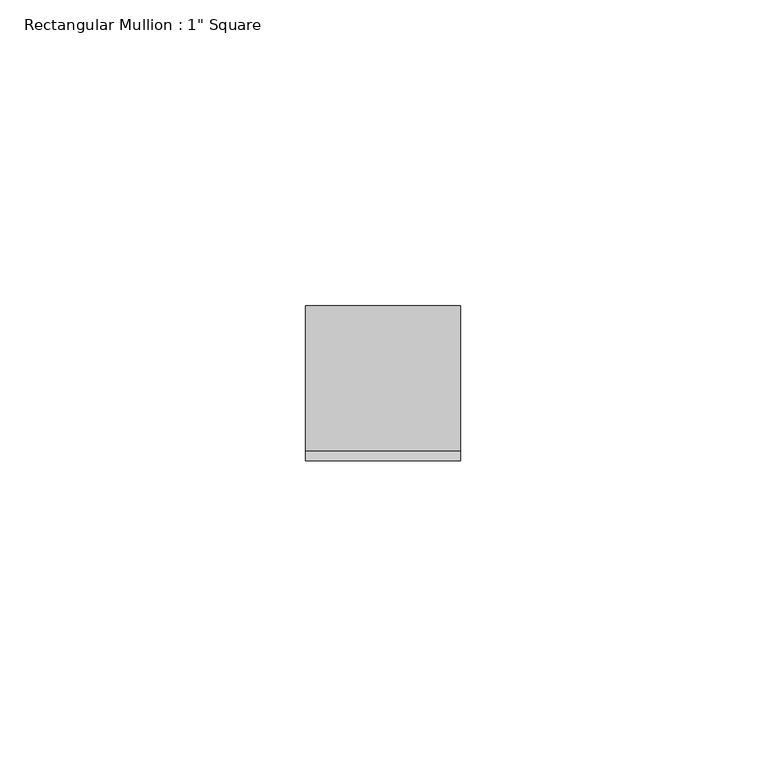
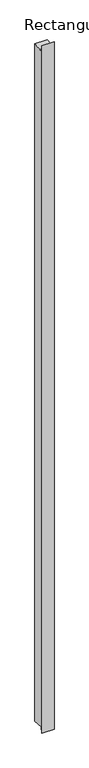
"""IFC4 building model written with IfcOpenShell, lengths in millimetres: member geometry."""

import ifcopenshell
import ifcopenshell.guid

model = None  # the IFC model being written
_history = None  # IfcOwnerHistory: only IFC2X3 demands one
_inside = {}  # id of a spatial element -> (the spatial element, [elements in it])
_under = {}  # id of a project, library or spatial element -> (it, [spatial elements below it])
_declared = {}  # id of a project -> (the project, [libraries it declares])
_typed = {}  # id of a type object -> (the type object, [elements of that type])
_made_of = {}  # id of a material, layer set ... -> (it, [elements and type objects made of it])


def new_model(schema):
    """Start an empty IFC model of exactly this schema.

    Asked for "IFC4X3", IfcOpenShell would pick the latest addendum, in which some entities
    have other attributes; the version numbers below select the first issue.
    IFC2X3 requires an IfcOwnerHistory on every rooted entity: one is made here for all.
    """
    global model, _history
    if schema == "IFC4X3":
        model = ifcopenshell.file(schema_version=(4, 3, 0, 0))
    else:
        model = ifcopenshell.file(schema=schema)
    _inside.clear()
    _under.clear()
    _declared.clear()
    _typed.clear()
    _made_of.clear()
    _history = None
    if model.schema == "IFC2X3":
        org = make("IfcOrganization", Name="unknown")
        user = make(
            "IfcPersonAndOrganization",
            ThePerson=make("IfcPerson", FamilyName="unknown"),
            TheOrganization=org,
        )
        app = make(
            "IfcApplication",
            ApplicationDeveloper=org,
            Version="unknown",
            ApplicationFullName="unknown",
            ApplicationIdentifier="unknown",
        )
        _history = make(
            "IfcOwnerHistory",
            OwningUser=user,
            OwningApplication=app,
            ChangeAction="ADDED",
            CreationDate=0,
        )
    return model


def make(cls, **values):
    """One entity of the class cls with the attributes given. An attribute that is None is left unset."""
    return model.create_entity(
        cls, **{name: value for name, value in values.items() if value is not None}
    )


def rooted(cls, **values):
    """An entity with a GlobalId (a new one), such as an element, a storey or a relation."""
    return make(cls, GlobalId=ifcopenshell.guid.new(), OwnerHistory=_history, **values)


def si_unit(unit_type, name, prefix=None):
    """IfcSIUnit, for example si_unit("LENGTHUNIT", "METRE", prefix="MILLI")."""
    return make("IfcSIUnit", UnitType=unit_type, Prefix=prefix, Name=name)


def assignment(units):
    """IfcUnitAssignment: the units of a project."""
    return None if units is None else make("IfcUnitAssignment", Units=units)


def point(xyz):
    """IfcCartesianPoint."""
    return None if xyz is None else make("IfcCartesianPoint", Coordinates=xyz)


def direction(xyz):
    """IfcDirection."""
    return None if xyz is None else make("IfcDirection", DirectionRatios=xyz)


def frame(location, z_axis=None, x_axis=None):
    """IfcAxis2Placement3D, a coordinate frame: its origin and axes. An axis left out is left unset."""
    return make(
        "IfcAxis2Placement3D",
        Location=point(location),
        Axis=direction(z_axis),
        RefDirection=direction(x_axis),
    )


def origin():
    """The frame at (0, 0, 0) with its axes left unset."""
    return frame((0.0, 0.0, 0.0))


def place(relative_to, where):
    """IfcLocalPlacement: puts the frame where relative to a parent placement (None: the world)."""
    return make(
        "IfcLocalPlacement", PlacementRelTo=relative_to, RelativePlacement=where
    )


def context(
    kind, dimensions, precision=None, world=None, true_north=None, identifier=None
):
    """IfcGeometricRepresentationContext, for example the 3D "Model" context."""
    return make(
        "IfcGeometricRepresentationContext",
        ContextIdentifier=identifier,
        ContextType=kind,
        CoordinateSpaceDimension=dimensions,
        Precision=precision,
        WorldCoordinateSystem=world,
        TrueNorth=true_north,
    )


def project(units=None, contexts=None):
    """IfcProject with its units and contexts."""
    return rooted(
        "IfcProject",
        Name="project",
        RepresentationContexts=contexts,
        UnitsInContext=assignment(units),
    )


def spatial(cls, under=None, at=None, **own):
    """A site, building, storey or space (cls), placed at a placement, below another one or the project."""
    s = rooted(cls, ObjectPlacement=at, **own)
    if under is not None:
        _under.setdefault(under.id(), (under, []))[1].append(s)
    return s


def polyline(points):
    """IfcPolyline through the points."""
    return make("IfcPolyline", Points=[point(p) for p in points])


def outline(outer, holes=None, kind="AREA"):
    """IfcArbitraryClosedProfileDef: a profile drawn as a closed curve; with holes, ...WithVoids."""
    if holes is None:
        return make("IfcArbitraryClosedProfileDef", ProfileType=kind, OuterCurve=outer)
    return make(
        "IfcArbitraryProfileDefWithVoids",
        ProfileType=kind,
        OuterCurve=outer,
        InnerCurves=holes,
    )


def extrude(swept, where, along, depth):
    """IfcExtrudedAreaSolid: the profile swept, set in the frame where, extruded along a direction by depth."""
    return make(
        "IfcExtrudedAreaSolid",
        SweptArea=swept,
        Position=where,
        ExtrudedDirection=direction(along),
        Depth=depth,
    )


def shape(context_of_items, identifier, shape_type, items):
    """IfcShapeRepresentation: the items that make up one representation, for example the "Body"."""
    return make(
        "IfcShapeRepresentation",
        ContextOfItems=context_of_items,
        RepresentationIdentifier=identifier,
        RepresentationType=shape_type,
        Items=items,
    )


def source(mapping_origin, context_of_items, identifier, shape_type, items):
    """IfcRepresentationMap: a shape defined once, which mapped items show again and again."""
    return make(
        "IfcRepresentationMap",
        MappingOrigin=mapping_origin,
        MappedRepresentation=shape(context_of_items, identifier, shape_type, items),
    )


def transform(
    local_origin,
    x_axis=None,
    y_axis=None,
    z_axis=None,
    scale=None,
    scale2=None,
    scale3=None,
    uniform=True,
):
    """IfcCartesianTransformationOperator3D, or its non-uniform kind. x_axis, y_axis, z_axis: its Axis1, 2, 3."""
    if uniform:
        return make(
            "IfcCartesianTransformationOperator3D",
            Axis1=direction(x_axis),
            Axis2=direction(y_axis),
            LocalOrigin=point(local_origin),
            Scale=scale,
            Axis3=direction(z_axis),
        )
    return make(
        "IfcCartesianTransformationOperator3DnonUniform",
        Axis1=direction(x_axis),
        Axis2=direction(y_axis),
        LocalOrigin=point(local_origin),
        Scale=scale,
        Axis3=direction(z_axis),
        Scale2=scale2,
        Scale3=scale3,
    )


def mapped(mapping_source, mapping_target):
    """IfcMappedItem: shows the shape of a source again, moved by a transform."""
    return make(
        "IfcMappedItem", MappingSource=mapping_source, MappingTarget=mapping_target
    )


def made_of(thing, what):
    """Note that an element or type object is made of a material, layer set ...; save() writes the relation."""
    if what is not None:
        _made_of.setdefault(what.id(), (what, []))[1].append(thing)
    return thing


def element(
    cls,
    number,
    at=None,
    inside=None,
    cuts=None,
    type_object=None,
    material=None,
    context=None,
    identifier="Body",
    shape_type=None,
    held_by="IfcProductDefinitionShape",
    body=None,
    shapes=None,
    **own,
):
    """One element of the class cls, such as IfcWall. Its Tag is "e" and its number.

    at: its placement. inside: the storey or other place that contains it. cuts: it is an
    opening in that element (IfcRelVoidsElement). A single representation is given by context,
    identifier, shape_type and body (its items); several are given by shapes. held_by: the class
    of the entity that holds the representations. save() writes the other relations.
    """
    e = rooted(cls, Tag="e%d" % number, ObjectPlacement=at, **own)
    if body is not None:
        shapes = [shape(context, identifier, shape_type, body)]
    if shapes is not None:
        e.Representation = make(held_by, Representations=shapes)
    if inside is not None:
        _inside.setdefault(inside.id(), (inside, []))[1].append(e)
    if cuts is not None:
        rooted(
            "IfcRelVoidsElement", RelatingBuildingElement=cuts, RelatedOpeningElement=e
        )
    if type_object is not None:
        _typed.setdefault(type_object.id(), (type_object, []))[1].append(e)
    return made_of(e, material)


def aggregate(whole, parts):
    """IfcRelAggregates: a whole, such as a stair, and the parts it consists of."""
    return rooted("IfcRelAggregates", RelatingObject=whole, RelatedObjects=parts)


def save(model, path):
    """Write the relations noted so far, then the file.

    IfcRelAggregates (storeys below a building ...), IfcRelContainedInSpatialStructure (elements
    in a storey), IfcRelDefinesByType, IfcRelAssociatesMaterial and IfcRelDeclares: one each for
    every whole, place, type object, material and project.
    """
    for whole, parts in _under.values():
        aggregate(whole, parts)
    for where, things in _inside.values():
        rooted(
            "IfcRelContainedInSpatialStructure",
            RelatedElements=things,
            RelatingStructure=where,
        )
    for kind, things in _typed.values():
        rooted("IfcRelDefinesByType", RelatedObjects=things, RelatingType=kind)
    for what, things in _made_of.values():
        rooted("IfcRelAssociatesMaterial", RelatedObjects=things, RelatingMaterial=what)
    for by, libraries in _declared.values():
        rooted("IfcRelDeclares", RelatingContext=by, RelatedDefinitions=libraries)
    model.write(path)


def member_113f7001(model_context):
    return source(origin(), model_context, "Body", "SweptSolid", [
        extrude(outline(polyline([(-12.7, 11.903125), (-11.0128906, -1.4878906), (12.7, 1.4996528), (12.7, -1500.0996528), (-11.0128906, -1497.1121094), (-12.7, -1510.503125), (-12.7, 11.903125)])), frame((-25.4, 0.0, 0.0), z_axis=(1.0, 0.0, 0.0), x_axis=(0.0, 1.0, 0.0)), (0.0, 0.0, 1.0), 25.4),
    ])


if __name__ == "__main__":
    model = new_model("IFC4")
    model_context = context("Model", 3, world=origin())
    ifc_project = project(units=[si_unit("LENGTHUNIT", "METRE", prefix="MILLI")], contexts=[model_context])
    site = spatial("IfcSite", under=ifc_project)
    building = spatial("IfcBuilding", under=site)
    placement = place(None, origin())
    member_shape = member_113f7001(model_context)
    element("IfcMember", 1, ObjectType="Rectangular Mullion : 1\" Square", at=placement, inside=building, context=model_context, shape_type="MappedRepresentation", body=[
        mapped(member_shape, transform((0.0, 0.0, 0.0), x_axis=(1.0, 0.0, 0.0), y_axis=(0.0, 1.0, 0.0), z_axis=(0.0, 0.0, 1.0))),
    ])
    save(model, "model.ifc")
